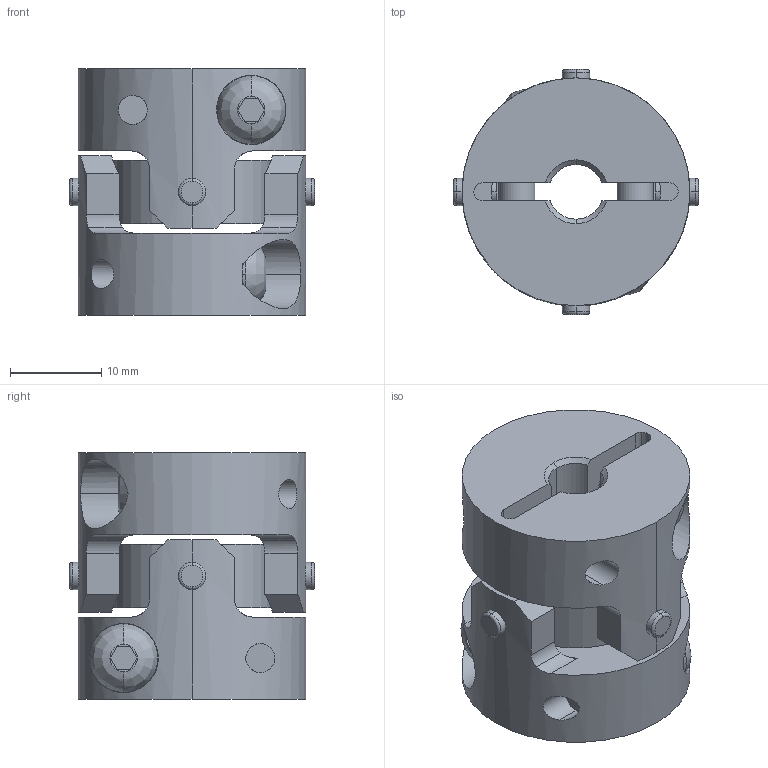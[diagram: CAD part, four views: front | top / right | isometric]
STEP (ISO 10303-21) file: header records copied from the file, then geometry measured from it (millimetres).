
FILE_DESCRIPTION((''),'2;1');
FILE_NAME('UA-25C-6×9.525.stp','2013-05-16T09:28:02',(''),(''),'AutoCAD STEP 2000i','AutoCAD 2000i',', , ');
FILE_SCHEMA(('CONFIG_CONTROL_DESIGN'));
Length unit declared in the file: millimetre
Products named in the file (7): UA-25C-5×9; 忣兜1; UA-2502-D09; BTN-M4; UA-2502-D05-1; UA-2502-D05; UA25-SEN
Assembly tree (8 placements, depth 3):
  UA-25C-5×9
    忣兜1
    UA-2502-D09
      BTN-M4
    UA-2502-D05-1
      BTN-M4
    UA-2502-D05
      BTN-M4
    UA25-SEN
Bounding box: 26.89 x 26.89 x 27 mm (x, y, z)
Volume: 9121.7 mm3; surface area: 6389 mm2
Topology: 1 solids, 1 shells, 208 faces, 562 edges, 368 vertices
Faces by surface type: cylinder 96, plane 80, cone 16, bspline 8, torus 8
Entity records: 8385 total; most frequent: CARTESIAN_POINT 2983, ORIENTED_EDGE 1124, DIRECTION 1084, EDGE_CURVE 562, AXIS2_PLACEMENT_3D 417, VERTEX_POINT 368, VECTOR 250, LINE 250
